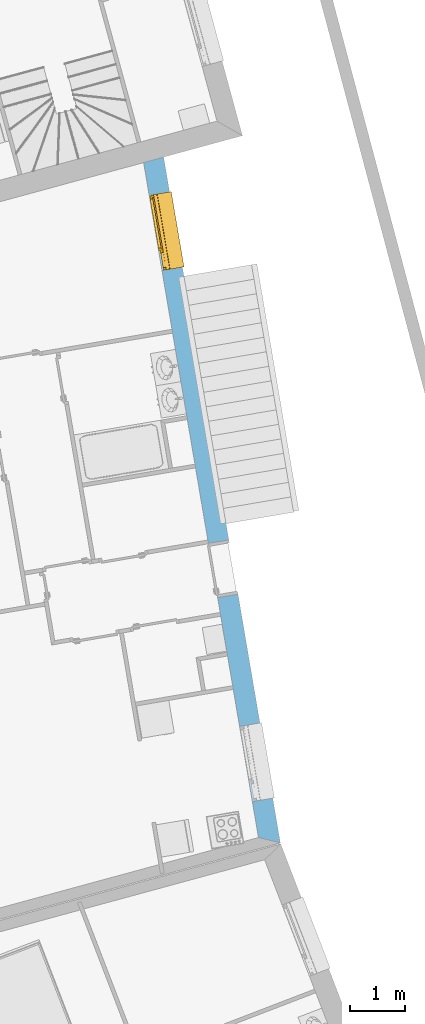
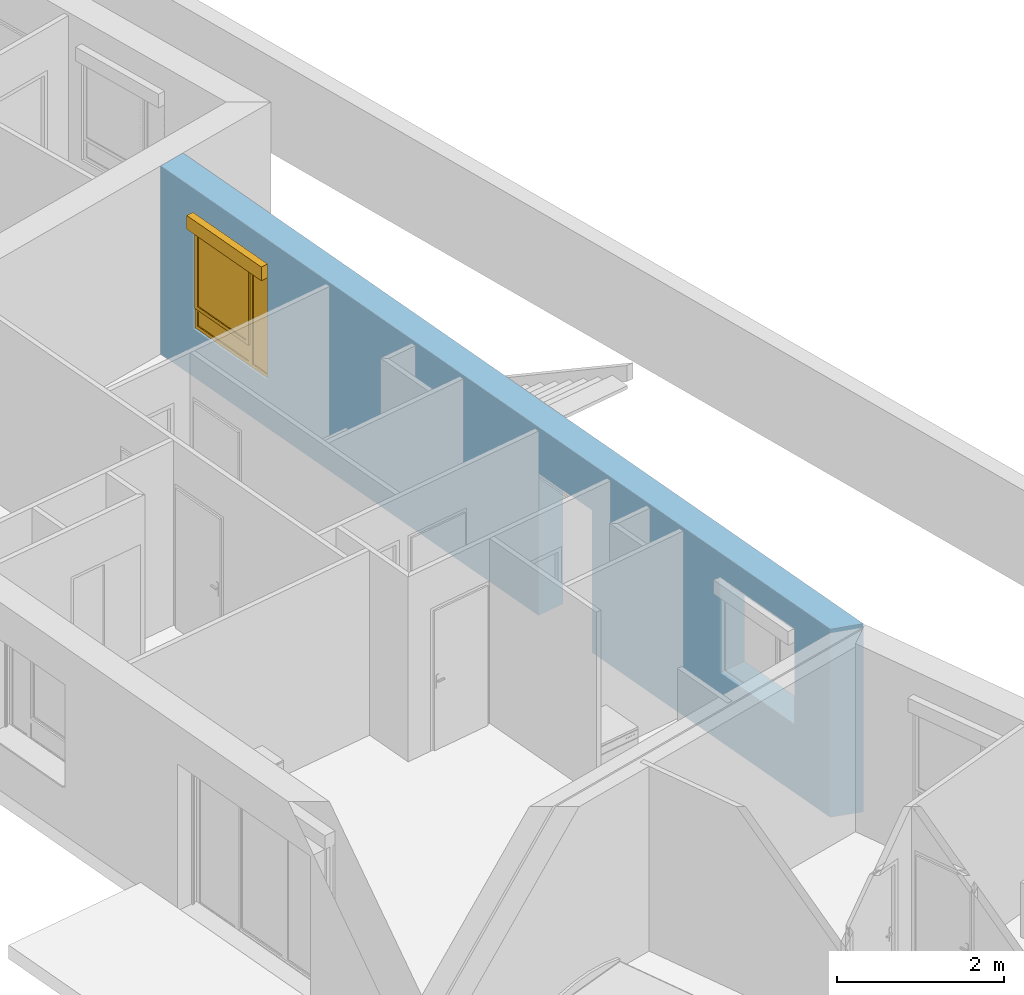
# One storey, part 90 of 195: 1 window, 3 openings, plus 1 element that does not belong to this part.
"""IFC2X3 building model written with IfcOpenShell, lengths in metres."""

from ifc_helpers import new_model, entity, si_unit, converted_unit, derived_unit, money_unit, direction, frame, origin_with_axes, origin_2d_with_axis, place, context, subcontext, project, spatial, polyline, rectangle, outline, extrude, open_shell, faceted_brep, surface_model, source, transform, mapped, material, layer, layer_set, layer_usage, type_object, element, fill, save


model = new_model("IFC2X3")

# Units and contexts
model_context = context("Model", 3, precision=1e-05, world=origin_with_axes(), true_north=direction((0.0, 1.0)))
body_context = subcontext(model_context, "Body", "Model", "MODEL_VIEW")
ifc_project = project(units=[si_unit("LENGTHUNIT", "METRE"), si_unit("AREAUNIT", "SQUARE_METRE"), si_unit("VOLUMEUNIT", "CUBIC_METRE"), converted_unit("PLANEANGLEUNIT", "DEGREE", entity("IfcPlaneAngleMeasure", 0.0174532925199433), si_unit("PLANEANGLEUNIT", "RADIAN"), dimensions=[0, 0, 0, 0, 0, 0, 0]), money_unit("CHF"), converted_unit("TIMEUNIT", "Year", entity("IfcTimeMeasure", 31557600.0), si_unit("TIMEUNIT", "SECOND"), dimensions=[0, 0, 1, 0, 0, 0, 0]), si_unit("MASSUNIT", "GRAM", prefix="KILO"), si_unit("THERMODYNAMICTEMPERATUREUNIT", "DEGREE_CELSIUS"), si_unit("LUMINOUSINTENSITYUNIT", "LUMEN"), si_unit("ENERGYUNIT", "JOULE", prefix="MEGA"), derived_unit("THERMALCONDUCTANCEUNIT", [(si_unit("POWERUNIT", "WATT"), 1), (si_unit("LENGTHUNIT", "METRE"), -1), (si_unit("THERMODYNAMICTEMPERATUREUNIT", "KELVIN"), -1)]), derived_unit("SPECIFICHEATCAPACITYUNIT", [(si_unit("ENERGYUNIT", "JOULE"), 1), (si_unit("MASSUNIT", "GRAM", prefix="KILO"), -1), (si_unit("THERMODYNAMICTEMPERATUREUNIT", "KELVIN"), -1)]), derived_unit("MASSDENSITYUNIT", [(si_unit("MASSUNIT", "GRAM", prefix="KILO"), 1), (si_unit("VOLUMEUNIT", "CUBIC_METRE"), -1)])], contexts=[model_context])

# Site, building, storey
site_placement = place(None, origin_with_axes())
site = spatial("IfcSite", under=ifc_project, at=site_placement, Name="Site", CompositionType="ELEMENT")
building_placement = place(site_placement, origin_with_axes())
building = spatial("IfcBuilding", under=site, at=building_placement, Name="Bâtiment", CompositionType="ELEMENT")
storey_placement = place(building_placement, origin_with_axes())
storey = spatial("IfcBuildingStorey", under=building, at=storey_placement, Name="rdc", CompositionType="ELEMENT", Elevation=0.0)

# Wall, openings, window
ifc_material_1 = material(Name="Parpaing 312445824")
ifc_layer_1 = layer(ifc_material_1, 0.22, ventilated="UNKNOWN")
ifc_material_2 = material(Name="Isolant styromousse 301821074")
ifc_layer_2 = layer(ifc_material_2, 0.16, ventilated="UNKNOWN")
ifc_layer_set = layer_set([ifc_layer_1, ifc_layer_2], Name="isol int 22+16 0836643197")
ifc_layer_usage = layer_usage(ifc_layer_set, "AXIS2", "NEGATIVE", 0.0)
wall_type = type_object("IfcWallType", Name="isol int 22+16 0836643197 380", PredefinedType="NOTDEFINED")
wall_placement = place(storey_placement, frame((9587.267838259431, -1021.018009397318, 57.7), z_axis=(0.0, 0.0, 1.0), x_axis=(0.1677527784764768, -0.9858290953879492, 0.0)))
wall = element("IfcWallStandardCase", 1, at=wall_placement, inside=storey, type_object=wall_type, material=ifc_layer_usage, Name="Mur-113", context=body_context, shape_type="SweptSolid", body=[
    extrude(outline(polyline([(0.03709306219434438, -0.3800000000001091), (12.59549387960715, -0.3800000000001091), (12.75935139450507, 0.0), (0.0, 0.0), (0.03709306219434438, -0.3800000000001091)])), origin_with_axes(), (0.0, 0.0, 1.0), 2.75),
])
opening_1_placement = place(wall_placement, frame((1.346512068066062, 0.0, 0.7000000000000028), z_axis=(0.0, 0.0, 1.0), x_axis=(1.0, 0.0, 0.0)))
opening_1 = element("IfcOpeningElement", 2, at=opening_1_placement, cuts=wall, Name="Fen-045", context=body_context, shape_type="Brep", body=[
    faceted_brep([(-0.6999999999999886, -0.2200000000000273, 1.5), (0.6999999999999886, -0.2200000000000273, 1.5), (0.700000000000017, 2.111085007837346, 1.5), (-0.6999999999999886, 2.111085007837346, 1.5), (-0.6999999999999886, -0.2200000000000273, 1.700000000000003), (0.6999999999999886, -0.2200000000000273, 1.700000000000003), (0.700000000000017, -0.2999999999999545, 1.5), (0.700000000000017, -0.2999999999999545, 0.0), (0.700000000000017, 2.111085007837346, 0.0), (-0.6999999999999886, 2.111085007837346, 0.0), (-0.6999999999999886, -0.2999999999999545, 1.5), (-0.6999999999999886, -0.2999999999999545, 0.0), (-0.6999999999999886, -0.4799999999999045, 1.5), (-0.6999999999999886, -0.4799999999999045, 1.700000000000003), (0.700000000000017, -0.4800000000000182, 1.700000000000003), (0.700000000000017, -0.4800000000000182, 1.5), (0.6999999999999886, -2.491085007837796, 1.5), (0.6999999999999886, -2.491085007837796, 0.0), (-0.6999999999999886, -2.491085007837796, 0.0), (-0.6999999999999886, -2.491085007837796, 1.5)], [[[0, 1, 2, 3]], [[1, 0, 4, 5]], [[1, 6, 7, 8, 2]], [[2, 8, 9, 3]], [[10, 0, 3, 9, 11]], [[0, 10, 12, 13, 4]], [[14, 5, 4, 13]], [[6, 1, 5, 14, 15]], [[6, 15, 16, 17, 7]], [[7, 11, 9, 8]], [[12, 10, 11, 18, 19]], [[12, 15, 14, 13]], [[15, 12, 19, 16]], [[19, 18, 17, 16]], [[11, 7, 17, 18]]]),
])
opening_2_placement = place(wall_placement, frame((7.627277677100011, 0.0, 0.0), z_axis=(0.0, 0.0, 1.0), x_axis=(1.0, 0.0, 0.0)))
element("IfcOpeningElement", 3, at=opening_2_placement, cuts=wall, Name="Por-290", context=body_context, shape_type="SweptSolid", body=[
    extrude(rectangle(XDim=1.01000001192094, YDim=2.079999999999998, at=origin_2d_with_axis()), frame((-5.960487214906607e-09, 0.3799999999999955, 1.039999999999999), z_axis=(0.0, -1.0, 0.0), x_axis=(-1.0, 0.0, 0.0)), (0.0, 0.0, 1.0), 0.76),
])
opening_3_placement = place(wall_placement, frame((11.22808404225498, 0.0, 1.0), z_axis=(0.0, 0.0, 1.0), x_axis=(1.0, 0.0, 0.0)))
element("IfcOpeningElement", 4, at=opening_3_placement, cuts=wall, Name="Fen-045", context=body_context, shape_type="Brep", body=[
    faceted_brep([(-0.700000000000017, -0.2200000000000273, 1.200000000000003), (0.6999999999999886, -0.2200000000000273, 1.200000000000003), (0.6999999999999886, 2.11108500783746, 1.200000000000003), (-0.700000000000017, 2.11108500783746, 1.200000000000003), (-0.700000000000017, -0.2200000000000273, 1.399999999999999), (0.6999999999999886, -0.2200000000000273, 1.399999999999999), (0.700000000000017, -0.2999999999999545, 1.200000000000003), (0.700000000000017, -0.2999999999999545, 0.0), (0.6999999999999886, 2.11108500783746, 0.0), (-0.700000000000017, 2.11108500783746, 0.0), (-0.700000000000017, -0.2999999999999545, 1.200000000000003), (-0.700000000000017, -0.2999999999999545, 0.0), (-0.700000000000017, -0.4800000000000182, 1.200000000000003), (-0.700000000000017, -0.4800000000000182, 1.399999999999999), (0.700000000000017, -0.4800000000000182, 1.399999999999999), (0.700000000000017, -0.4800000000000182, 1.200000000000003), (0.6999999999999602, -2.491085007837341, 1.200000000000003), (0.6999999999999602, -2.491085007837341, 0.0), (-0.700000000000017, -2.491085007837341, 0.0), (-0.700000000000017, -2.491085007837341, 1.200000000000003)], [[[0, 1, 2, 3]], [[1, 0, 4, 5]], [[1, 6, 7, 8, 2]], [[2, 8, 9, 3]], [[10, 0, 3, 9, 11]], [[0, 10, 12, 13, 4]], [[14, 5, 4, 13]], [[6, 1, 5, 14, 15]], [[6, 15, 16, 17, 7]], [[7, 11, 9, 8]], [[12, 10, 11, 18, 19]], [[12, 15, 14, 13]], [[15, 12, 19, 16]], [[19, 18, 17, 16]], [[11, 7, 17, 18]]]),
])
window_style = type_object("IfcWindowStyle", Name="Fenêtre variable 27", ConstructionType="NOTDEFINED", OperationType="TRIPLE_PANEL_LEFT", ParameterTakesPrecedence=False, Sizeable=False)
shared_shape = source(origin_with_axes(), body_context, "Body", "SurfaceModel", [
    surface_model("IfcShellBasedSurfaceModel", [(0.7, -0.05100000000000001, 0.05), (-0.7, -0.05100000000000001, 0.05000000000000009), (-0.7, -0.05100000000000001, 0.04000000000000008), (0.7, -0.05100000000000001, 0.04), (-0.7, -0.3799999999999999, 0.02900000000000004), (0.7, -0.3799999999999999, 0.02899999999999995), (-0.7, -0.3799999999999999, 0.00900000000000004), (0.7, -0.3799999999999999, 0.008999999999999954), (-0.7, -0.3699999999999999, 0.01900000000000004), (0.7, -0.3699999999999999, 0.01899999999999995)], [open_shell([[[0, 1, 2, 3]], [[3, 2, 4, 5]], [[5, 4, 6, 7]], [[7, 6, 8, 9]]])]),
    faceted_brep([(0.7, -0.13, 1.7), (0.7, 0.13, 1.7), (0.697, 0.13, 1.7), (0.697, -0.13, 1.7), (0.7, -0.13, 1.5), (0.7, 0.13, 1.5), (0.697, 0.13, 1.5), (0.697, -0.13, 1.5)], [[[0, 1, 2, 3]], [[0, 4, 5, 1]], [[1, 5, 6, 2]], [[3, 2, 6, 7]], [[4, 0, 3, 7]], [[5, 4, 7, 6]]]),
    faceted_brep([(-0.6970000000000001, -0.1299999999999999, 1.7), (-0.6970000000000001, 0.1300000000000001, 1.7), (-0.7000000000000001, 0.1300000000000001, 1.7), (-0.7000000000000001, -0.1299999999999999, 1.7), (-0.6970000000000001, -0.1299999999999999, 1.5), (-0.6970000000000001, 0.1300000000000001, 1.5), (-0.7000000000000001, 0.1300000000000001, 1.5), (-0.7000000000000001, -0.1299999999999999, 1.5)], [[[0, 1, 2, 3]], [[0, 4, 5, 1]], [[1, 5, 6, 2]], [[3, 2, 6, 7]], [[4, 0, 3, 7]], [[5, 4, 7, 6]]]),
    faceted_brep([(0.697, -0.13, 1.5), (0.697, -0.13, 1.7), (-0.697, -0.1299999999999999, 1.7), (-0.697, -0.1299999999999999, 1.5), (0.697, -0.127, 1.5), (0.697, -0.127, 1.697), (0.697, 0.127, 1.697), (0.697, 0.127, 1.503), (0.697, -0.108, 1.503), (0.697, -0.108, 1.5), (0.697, 0.13, 1.5), (0.697, 0.13, 1.7), (-0.697, 0.1300000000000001, 1.7), (-0.697, 0.1300000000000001, 1.5), (-0.697, -0.1079999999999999, 1.5), (-0.697, -0.1079999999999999, 1.503), (-0.697, 0.1270000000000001, 1.503), (-0.697, 0.1270000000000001, 1.697), (-0.697, -0.1269999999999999, 1.697), (-0.697, -0.1269999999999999, 1.5)], [[[0, 1, 2, 3]], [[0, 4, 5, 6, 7, 8, 9, 10, 11, 1]], [[1, 11, 12, 2]], [[3, 2, 12, 13, 14, 15, 16, 17, 18, 19]], [[4, 0, 3, 19]], [[5, 4, 19, 18]], [[6, 5, 18, 17]], [[7, 6, 17, 16]], [[8, 7, 16, 15]], [[9, 8, 15, 14]], [[10, 9, 14, 13]], [[11, 10, 13, 12]]]),
    faceted_brep([(0.694, -0.08075423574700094, 1.585760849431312), (0.694, -0.07705479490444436, 1.571954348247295), (0.694, -0.07101408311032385, 1.559), (0.694, -0.06281564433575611, 1.547291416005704), (0.694, -0.05270858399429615, 1.537184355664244), (0.694, -0.04099999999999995, 1.528985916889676), (0.694, -0.02804565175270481, 1.522945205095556), (0.694, -0.01423915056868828, 1.519245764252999), (0.694, 0.0, 1.518), (0.694, 0.01423915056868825, 1.519245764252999), (0.694, 0.02804565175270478, 1.522945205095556), (0.694, 0.04099999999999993, 1.528985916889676), (0.694, 0.05270858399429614, 1.537184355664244), (0.694, 0.06281564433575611, 1.547291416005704), (0.694, 0.07101408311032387, 1.559), (0.694, 0.07705479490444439, 1.571954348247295), (0.694, 0.08075423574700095, 1.585760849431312), (0.694, 0.0819999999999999, 1.6), (0.694, 0.08075423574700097, 1.614239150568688), (0.694, 0.0770547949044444, 1.628045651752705), (0.694, 0.07101408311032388, 1.641), (0.694, 0.06281564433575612, 1.652708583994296), (0.694, 0.05270858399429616, 1.662815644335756), (0.694, 0.04099999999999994, 1.671014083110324), (0.694, 0.02804565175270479, 1.677054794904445), (0.694, 0.01423915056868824, 1.680754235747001), (0.694, 0.0, 1.682), (0.694, -0.01423915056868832, 1.680754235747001), (0.694, -0.02804565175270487, 1.677054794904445), (0.694, -0.04100000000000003, 1.671014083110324), (0.694, -0.05270858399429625, 1.662815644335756), (0.694, -0.06281564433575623, 1.652708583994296), (0.694, -0.07101408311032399, 1.641), (0.694, -0.07705479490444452, 1.628045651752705), (0.694, -0.0807542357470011, 1.614239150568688), (0.694, -0.08200000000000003, 1.6), (-0.694, -0.08075423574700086, 1.585760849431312), (-0.694, -0.07705479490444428, 1.571954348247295), (-0.694, -0.07101408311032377, 1.559), (-0.694, -0.06281564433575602, 1.547291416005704), (-0.694, -0.05270858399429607, 1.537184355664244), (-0.694, -0.04099999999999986, 1.528985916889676), (-0.694, -0.02804565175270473, 1.522945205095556), (-0.694, -0.0142391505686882, 1.519245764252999), (-0.694, 0.0, 1.518), (-0.694, 0.01423915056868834, 1.519245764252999), (-0.694, 0.02804565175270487, 1.522945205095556), (-0.694, 0.04100000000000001, 1.528985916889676), (-0.694, 0.05270858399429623, 1.537184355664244), (-0.694, 0.06281564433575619, 1.547291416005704), (-0.694, 0.07101408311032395, 1.559), (-0.694, 0.07705479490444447, 1.571954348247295), (-0.694, 0.08075423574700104, 1.585760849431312), (-0.694, 0.08199999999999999, 1.6), (-0.694, 0.08075423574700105, 1.614239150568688), (-0.694, 0.07705479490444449, 1.628045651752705), (-0.694, 0.07101408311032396, 1.641), (-0.694, 0.0628156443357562, 1.652708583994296), (-0.694, 0.05270858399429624, 1.662815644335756), (-0.694, 0.04100000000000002, 1.671014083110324), (-0.694, 0.02804565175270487, 1.677054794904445), (-0.694, 0.01423915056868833, 1.680754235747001), (-0.694, 0.0, 1.682), (-0.694, -0.01423915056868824, 1.680754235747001), (-0.694, -0.02804565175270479, 1.677054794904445), (-0.694, -0.04099999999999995, 1.671014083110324), (-0.694, -0.05270858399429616, 1.662815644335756), (-0.694, -0.06281564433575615, 1.652708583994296), (-0.694, -0.07101408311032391, 1.641), (-0.694, -0.07705479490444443, 1.628045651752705), (-0.694, -0.08075423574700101, 1.614239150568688), (-0.694, -0.08199999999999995, 1.6)], [[[0, 1, 2, 3, 4, 5, 6, 7, 8, 9, 10, 11, 12, 13, 14, 15, 16, 17, 18, 19, 20, 21, 22, 23, 24, 25, 26, 27, 28, 29, 30, 31, 32, 33, 34, 35]], [[1, 0, 36, 37]], [[2, 1, 37, 38]], [[3, 2, 38, 39]], [[4, 3, 39, 40]], [[5, 4, 40, 41]], [[6, 5, 41, 42]], [[7, 6, 42, 43]], [[8, 7, 43, 44]], [[9, 8, 44, 45]], [[10, 9, 45, 46]], [[11, 10, 46, 47]], [[12, 11, 47, 48]], [[13, 12, 48, 49]], [[14, 13, 49, 50]], [[15, 14, 50, 51]], [[16, 15, 51, 52]], [[17, 16, 52, 53]], [[18, 17, 53, 54]], [[19, 18, 54, 55]], [[20, 19, 55, 56]], [[21, 20, 56, 57]], [[22, 21, 57, 58]], [[23, 22, 58, 59]], [[24, 23, 59, 60]], [[25, 24, 60, 61]], [[26, 25, 61, 62]], [[27, 26, 62, 63]], [[28, 27, 63, 64]], [[29, 28, 64, 65]], [[30, 29, 65, 66]], [[31, 30, 66, 67]], [[32, 31, 67, 68]], [[33, 32, 68, 69]], [[34, 33, 69, 70]], [[35, 34, 70, 71]], [[0, 35, 71, 36]], [[36, 71, 70, 69, 68, 67, 66, 65, 64, 63, 62, 61, 60, 59, 58, 57, 56, 55, 54, 53, 52, 51, 50, 49, 48, 47, 46, 45, 44, 43, 42, 41, 40, 39, 38, 37]]]),
    faceted_brep([(-0.7, -0.105, 0.03), (-0.7, -0.13, 0.03), (-0.7, -0.1299999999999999, 1.5), (-0.7, -0.1049999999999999, 1.5), (-0.6749999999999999, -0.105, 0.03), (-0.6749999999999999, -0.108, 0.03), (-0.697, -0.108, 0.03), (-0.697, -0.127, 0.03), (-0.6749999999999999, -0.127, 0.03), (-0.6749999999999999, -0.13, 0.03), (-0.6749999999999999, -0.1299999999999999, 1.5), (-0.6749999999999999, -0.1269999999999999, 1.5), (-0.697, -0.1269999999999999, 1.5), (-0.697, -0.1079999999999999, 1.5), (-0.6749999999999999, -0.1079999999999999, 1.5), (-0.6749999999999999, -0.1049999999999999, 1.5)], [[[0, 1, 2, 3]], [[0, 4, 5, 6, 7, 8, 9, 1]], [[1, 9, 10, 2]], [[3, 2, 10, 11, 12, 13, 14, 15]], [[4, 0, 3, 15]], [[5, 4, 15, 14]], [[6, 5, 14, 13]], [[7, 6, 13, 12]], [[8, 7, 12, 11]], [[9, 8, 11, 10]]]),
    faceted_brep([(0.7, -0.105, 0.03), (0.7, -0.1049999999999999, 1.5), (0.7, -0.1299999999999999, 1.5), (0.7, -0.13, 0.03), (0.6749999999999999, -0.105, 0.03), (0.6749999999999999, -0.1049999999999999, 1.5), (0.6749999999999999, -0.1079999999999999, 1.5), (0.697, -0.1079999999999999, 1.5), (0.697, -0.1269999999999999, 1.5), (0.6749999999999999, -0.1269999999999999, 1.5), (0.6749999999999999, -0.1299999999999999, 1.5), (0.6749999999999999, -0.13, 0.03), (0.6749999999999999, -0.127, 0.03), (0.697, -0.127, 0.03), (0.697, -0.108, 0.03), (0.6749999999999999, -0.108, 0.03)], [[[0, 1, 2, 3]], [[4, 5, 1, 0]], [[1, 5, 6, 7, 8, 9, 10, 2]], [[3, 2, 10, 11]], [[0, 3, 11, 12, 13, 14, 15, 4]], [[15, 6, 5, 4]], [[14, 7, 6, 15]], [[13, 8, 7, 14]], [[12, 9, 8, 13]], [[11, 10, 9, 12]]]),
    surface_model("IfcShellBasedSurfaceModel", [(0.697, -0.115, 1.6), (-0.697, -0.1149999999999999, 1.6), (-0.697, -0.12, 1.6), (0.697, -0.12, 1.6), (0.697, -0.115, 1.6), (0.697, -0.12, 1.6), (-0.697, -0.1199999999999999, 1.6), (-0.697, -0.1149999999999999, 1.6)], [open_shell([[[0, 1, 2, 3]], [[4, 5, 6, 7]]])]),
    faceted_brep([(0.697, -0.115, 1.6), (0.697, -0.1166666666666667, 1.583333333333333), (-0.697, -0.1166666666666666, 1.583333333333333), (-0.697, -0.1149999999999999, 1.6), (0.697, -0.12, 1.6), (0.697, -0.1216666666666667, 1.583333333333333), (0.697, -0.1216666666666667, 1.566666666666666), (0.697, -0.12, 1.55), (0.697, -0.115, 1.55), (0.697, -0.1166666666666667, 1.566666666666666), (-0.697, -0.1166666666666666, 1.566666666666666), (-0.697, -0.1149999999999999, 1.55), (-0.697, -0.1199999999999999, 1.55), (-0.697, -0.1216666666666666, 1.566666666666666), (-0.697, -0.1216666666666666, 1.583333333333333), (-0.697, -0.1199999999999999, 1.6)], [[[0, 1, 2, 3]], [[0, 4, 5, 6, 7, 8, 9, 1]], [[1, 9, 10, 2]], [[3, 2, 10, 11, 12, 13, 14, 15]], [[4, 0, 3, 15]], [[5, 4, 15, 14]], [[6, 5, 14, 13]], [[7, 6, 13, 12]], [[8, 7, 12, 11]], [[9, 8, 11, 10]]]),
    faceted_brep([(0.697, -0.115, 1.55), (0.697, -0.1166666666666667, 1.533333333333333), (-0.697, -0.1166666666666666, 1.533333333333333), (-0.697, -0.1149999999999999, 1.55), (0.697, -0.12, 1.55), (0.697, -0.1216666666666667, 1.533333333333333), (0.697, -0.1216666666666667, 1.516666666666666), (0.697, -0.12, 1.5), (0.697, -0.115, 1.5), (0.697, -0.1166666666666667, 1.516666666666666), (-0.697, -0.1166666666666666, 1.516666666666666), (-0.697, -0.1149999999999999, 1.5), (-0.697, -0.1199999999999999, 1.5), (-0.697, -0.1216666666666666, 1.516666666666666), (-0.697, -0.1216666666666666, 1.533333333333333), (-0.697, -0.1199999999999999, 1.55)], [[[0, 1, 2, 3]], [[0, 4, 5, 6, 7, 8, 9, 1]], [[1, 9, 10, 2]], [[3, 2, 10, 11, 12, 13, 14, 15]], [[4, 0, 3, 15]], [[5, 4, 15, 14]], [[6, 5, 14, 13]], [[7, 6, 13, 12]], [[8, 7, 12, 11]], [[9, 8, 11, 10]]]),
    faceted_brep([(0.6749999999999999, 0.0, 1.45), (0.6749999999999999, -0.02500000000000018, 1.45), (0.6499999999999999, -0.02500000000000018, 1.45), (0.6499999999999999, -0.05000000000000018, 1.45), (0.7, -0.05000000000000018, 1.45), (0.7, 0.0, 1.45), (0.6749999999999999, 0.0, 0.3099999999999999), (0.6749999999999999, -0.02500000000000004, 0.3099999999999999), (0.6499999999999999, -0.02500000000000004, 0.335), (0.6499999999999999, -0.02500000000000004, 0.3099999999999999), (0.6499999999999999, -0.05000000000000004, 0.335), (0.6499999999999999, -0.05000000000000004, 0.265), (0.6499999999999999, -0.05000000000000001, 0.05000000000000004), (0.7, -0.05000000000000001, 0.05000000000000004), (0.7, 0.0, 0.05000000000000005), (0.6499999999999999, 0.0, 0.05000000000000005), (0.6499999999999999, 0.0, 0.265), (0.6499999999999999, 0.0, 0.3099999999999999)], [[[0, 1, 2, 3, 4, 5]], [[1, 0, 6, 7]], [[8, 2, 1, 7, 9]], [[2, 8, 10, 3]], [[10, 11, 12, 13, 4, 3]], [[5, 4, 13, 14]], [[6, 0, 5, 14, 15, 16, 17]], [[6, 17, 9, 7]], [[9, 17, 16, 11, 10, 8]], [[15, 12, 11, 16]], [[14, 13, 12, 15]]]),
    faceted_brep([(-0.3068894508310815, -0.02500000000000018, 1.45), (-0.3318894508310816, -0.02500000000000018, 1.45), (-0.3318894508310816, 0.0, 1.45), (-0.3768894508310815, 0.0, 1.45), (-0.3768894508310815, -0.05000000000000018, 1.45), (-0.3068894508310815, -0.05000000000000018, 1.45), (-0.3068894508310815, -0.02500000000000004, 0.335), (-0.3068894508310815, -0.02500000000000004, 0.3099999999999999), (-0.3318894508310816, -0.02500000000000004, 0.3099999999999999), (-0.3318894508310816, 0.0, 0.3099999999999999), (-0.3068894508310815, 0.0, 0.3099999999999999), (-0.3068894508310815, 0.0, 0.265), (-0.3068894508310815, 0.0, 0.05000000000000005), (-0.3768894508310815, 0.0, 0.05000000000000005), (-0.3768894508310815, -0.05000000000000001, 0.05000000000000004), (-0.3068894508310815, -0.05000000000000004, 0.265), (-0.3068894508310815, -0.05000000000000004, 0.335), (-0.3068894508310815, -0.05000000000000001, 0.05000000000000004)], [[[0, 1, 2, 3, 4, 5]], [[1, 0, 6, 7, 8]], [[9, 2, 1, 8]], [[9, 10, 11, 12, 13, 3, 2]], [[13, 14, 4, 3]], [[15, 16, 5, 4, 14, 17]], [[6, 0, 5, 16]], [[7, 6, 16, 15, 11, 10]], [[10, 9, 8, 7]], [[11, 15, 17, 12]], [[12, 17, 14, 13]]]),
    faceted_brep([(0.6499999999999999, -0.02500000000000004, 0.335), (-0.3068894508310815, -0.02500000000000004, 0.335), (-0.3068894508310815, -0.05000000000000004, 0.335), (0.6499999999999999, -0.05000000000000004, 0.335), (-0.3068894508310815, -0.02500000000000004, 0.3099999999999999), (0.6499999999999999, -0.02500000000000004, 0.3099999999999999), (-0.3068894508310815, 0.0, 0.3099999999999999), (-0.3068894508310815, 0.0, 0.265), (-0.3068894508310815, -0.05000000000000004, 0.265), (0.6499999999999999, -0.05000000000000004, 0.265), (0.6499999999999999, 0.0, 0.265), (0.6499999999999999, 0.0, 0.3099999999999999)], [[[0, 1, 2, 3]], [[4, 1, 0, 5]], [[4, 6, 7, 8, 2, 1]], [[2, 8, 9, 3]], [[5, 0, 3, 9, 10, 11]], [[11, 6, 4, 5]], [[6, 11, 10, 7]], [[10, 9, 8, 7]]]),
    faceted_brep([(0.6749999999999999, 0.0, 1.45), (0.6749999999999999, 0.0, 1.475), (-0.3318894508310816, 0.0, 1.475), (-0.3318894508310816, 0.0, 1.45), (-0.3768894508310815, 0.0, 1.45), (-0.6499999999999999, 0.0, 1.45), (-0.7, 0.0, 1.45), (-0.7, 0.0, 1.5), (0.7, 0.0, 1.5), (0.7, 0.0, 1.45), (0.6749999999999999, -0.02500000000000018, 1.45), (0.6749999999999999, -0.02500000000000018, 1.475), (-0.3318894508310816, -0.02500000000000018, 1.475), (-0.3318894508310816, -0.02500000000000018, 1.45), (-0.3068894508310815, -0.02500000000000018, 1.45), (-0.3068894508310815, -0.05000000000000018, 1.45), (-0.3768894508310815, -0.05000000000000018, 1.45), (-0.6499999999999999, -0.05000000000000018, 1.45), (-0.7, -0.05000000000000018, 1.45), (-0.7, -0.05000000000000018, 1.5), (0.7, -0.05000000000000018, 1.5), (0.7, -0.05000000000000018, 1.45), (0.6499999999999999, -0.05000000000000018, 1.45), (0.6499999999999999, -0.02500000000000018, 1.45)], [[[0, 1, 2, 3, 4, 5, 6, 7, 8, 9]], [[1, 0, 10, 11]], [[2, 1, 11, 12]], [[3, 2, 12, 13]], [[13, 14, 15, 16, 4, 3]], [[4, 16, 17, 5]], [[5, 17, 18, 6]], [[6, 18, 19, 7]], [[7, 19, 20, 8]], [[8, 20, 21, 9]], [[10, 0, 9, 21, 22, 23]], [[14, 13, 12, 11, 10, 23]], [[14, 23, 22, 15]], [[16, 15, 22, 21, 20, 19, 18, 17]]]),
    faceted_brep([(-0.6499999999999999, -0.05000000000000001, 0.05), (-0.7, -0.05000000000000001, 0.05), (-0.7, 0.0, 0.05000000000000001), (-0.6499999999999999, 0.0, 0.05000000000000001), (-0.6499999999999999, -0.05000000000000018, 1.45), (-0.7, -0.05000000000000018, 1.45), (-0.7, 0.0, 1.45), (-0.6499999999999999, 0.0, 1.45)], [[[0, 1, 2, 3]], [[0, 4, 5, 1]], [[1, 5, 6, 2]], [[3, 2, 6, 7]], [[4, 0, 3, 7]], [[5, 4, 7, 6]]]),
    faceted_brep([(0.6499999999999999, -0.05000000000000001, 0.05), (0.7, -0.05000000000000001, 0.05), (0.7, 0.0, 0.05000000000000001), (0.6499999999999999, 0.0, 0.05000000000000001), (-0.3068894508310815, -0.05000000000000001, 0.05), (-0.3768894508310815, -0.05000000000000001, 0.05), (-0.6499999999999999, -0.05000000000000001, 0.05), (-0.7, -0.05000000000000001, 0.05), (-0.7, -0.05, 0.0), (0.7, -0.05, 0.0), (0.7, 0.0, 0.0), (-0.7, 0.0, 0.0), (-0.7, 0.0, 0.05000000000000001), (-0.6499999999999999, 0.0, 0.05000000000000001), (-0.3768894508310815, 0.0, 0.05000000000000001), (-0.3068894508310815, 0.0, 0.05000000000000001)], [[[0, 1, 2, 3]], [[0, 4, 5, 6, 7, 8, 9, 1]], [[1, 9, 10, 2]], [[3, 2, 10, 11, 12, 13, 14, 15]], [[4, 0, 3, 15]], [[5, 4, 15, 14]], [[6, 5, 14, 13]], [[7, 6, 13, 12]], [[8, 7, 12, 11]], [[9, 8, 11, 10]]]),
    faceted_brep([(0.625, -0.02500000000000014, 1.425), (0.6749999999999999, -0.02500000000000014, 1.425), (0.6749999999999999, 0.02499999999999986, 1.425), (0.625, 0.02499999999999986, 1.425), (0.625, -0.02500000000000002, 0.3599999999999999), (0.6749999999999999, -0.02500000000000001, 0.3599999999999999), (0.6749999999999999, 0.02499999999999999, 0.3599999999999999), (0.625, 0.02499999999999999, 0.3599999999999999)], [[[0, 1, 2, 3]], [[0, 4, 5, 1]], [[1, 5, 6, 2]], [[3, 2, 6, 7]], [[4, 0, 3, 7]], [[5, 4, 7, 6]]]),
    faceted_brep([(-0.2818894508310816, -0.02500000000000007, 0.3599999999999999), (-0.3318894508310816, -0.02500000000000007, 0.3599999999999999), (-0.3318894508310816, 0.02499999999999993, 0.3599999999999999), (-0.2818894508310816, 0.02499999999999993, 0.3599999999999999), (-0.2818894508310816, -0.0250000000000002, 1.425), (-0.3318894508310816, -0.0250000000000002, 1.425), (-0.3318894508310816, 0.0249999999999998, 1.425), (-0.2818894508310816, 0.0249999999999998, 1.425)], [[[0, 1, 2, 3]], [[0, 4, 5, 1]], [[1, 5, 6, 2]], [[3, 2, 6, 7]], [[4, 0, 3, 7]], [[5, 4, 7, 6]]]),
    faceted_brep([(-0.3318894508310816, -0.02500000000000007, 0.3099999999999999), (-0.3318894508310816, -0.02500000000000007, 0.3599999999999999), (-0.3318894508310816, 0.02499999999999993, 0.3599999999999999), (-0.3318894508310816, 0.02499999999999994, 0.3099999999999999), (0.6749999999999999, -0.025, 0.3099999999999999), (0.6749999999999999, -0.02500000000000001, 0.3599999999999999), (0.625, -0.02500000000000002, 0.3599999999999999), (-0.2818894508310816, -0.02500000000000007, 0.3599999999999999), (-0.2818894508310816, 0.02499999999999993, 0.3599999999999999), (0.625, 0.02499999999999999, 0.3599999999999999), (0.6749999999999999, 0.02499999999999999, 0.3599999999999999), (0.6749999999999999, 0.02499999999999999, 0.3099999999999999)], [[[0, 1, 2, 3]], [[0, 4, 5, 6, 7, 1]], [[1, 7, 8, 2]], [[3, 2, 8, 9, 10, 11]], [[4, 0, 3, 11]], [[5, 4, 11, 10]], [[6, 5, 10, 9]], [[7, 6, 9, 8]]]),
    faceted_brep([(0.6749999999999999, -0.02500000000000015, 1.475), (0.6749999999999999, -0.02500000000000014, 1.425), (0.6749999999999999, 0.02499999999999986, 1.425), (0.6749999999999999, 0.02499999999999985, 1.475), (-0.3318894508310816, -0.02500000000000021, 1.475), (-0.3318894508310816, -0.0250000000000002, 1.425), (-0.2818894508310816, -0.0250000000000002, 1.425), (0.625, -0.02500000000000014, 1.425), (0.625, 0.02499999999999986, 1.425), (-0.2818894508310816, 0.0249999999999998, 1.425), (-0.3318894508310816, 0.0249999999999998, 1.425), (-0.3318894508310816, 0.02499999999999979, 1.475)], [[[0, 1, 2, 3]], [[0, 4, 5, 6, 7, 1]], [[1, 7, 8, 2]], [[3, 2, 8, 9, 10, 11]], [[4, 0, 3, 11]], [[5, 4, 11, 10]], [[6, 5, 10, 9]], [[7, 6, 9, 8]]]),
    surface_model("IfcShellBasedSurfaceModel", [(0.625, -0.01000000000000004, 0.3599999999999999), (0.625, -0.01000000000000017, 1.425), (-0.2818894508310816, -0.01000000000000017, 1.425), (-0.2818894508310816, -0.01000000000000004, 0.3599999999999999)], [open_shell([[[0, 1, 2, 3]]])]),
    surface_model("IfcShellBasedSurfaceModel", [(0.625, 0.009999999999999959, 0.3599999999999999), (-0.2818894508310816, 0.009999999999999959, 0.3599999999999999), (-0.2818894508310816, 0.00999999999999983, 1.425), (0.625, 0.00999999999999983, 1.425)], [open_shell([[[0, 1, 2, 3]]])]),
    surface_model("IfcShellBasedSurfaceModel", [(-0.3768894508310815, -0.035, 0.05), (-0.3768894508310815, -0.03500000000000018, 1.45), (-0.65, -0.03500000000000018, 1.45), (-0.65, -0.035, 0.05)], [open_shell([[[0, 1, 2, 3]]])]),
    surface_model("IfcShellBasedSurfaceModel", [(-0.3768894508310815, -0.015, 0.05), (-0.65, -0.015, 0.05), (-0.65, -0.01500000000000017, 1.45), (-0.3768894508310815, -0.01500000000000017, 1.45)], [open_shell([[[0, 1, 2, 3]]])]),
    surface_model("IfcShellBasedSurfaceModel", [(0.6499999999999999, -0.035, 0.05), (0.6499999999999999, -0.03500000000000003, 0.265), (-0.3068894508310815, -0.03500000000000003, 0.265), (-0.3068894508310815, -0.035, 0.05)], [open_shell([[[0, 1, 2, 3]]])]),
    surface_model("IfcShellBasedSurfaceModel", [(0.6499999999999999, -0.015, 0.05), (-0.3068894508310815, -0.015, 0.05), (-0.3068894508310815, -0.01500000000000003, 0.265), (0.6499999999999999, -0.01500000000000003, 0.265)], [open_shell([[[0, 1, 2, 3]]])]),
])
window_placement = place(opening_1_placement, frame((0.7000000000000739, 0.0, 0.0), z_axis=(0.0, 0.0, 1.0), x_axis=(-1.0, 0.0, 0.0)))
window = element("IfcWindow", 5, at=window_placement, inside=storey, type_object=window_style, Name="Fen-045", OverallHeight=1.5, OverallWidth=1.4, context=body_context, shape_type="MappedRepresentation", body=[
    mapped(shared_shape, transform((0.700000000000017, 0.3500000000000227, 0.0))),
])
fill(opening_1, window)

save(model, "model.ifc")
